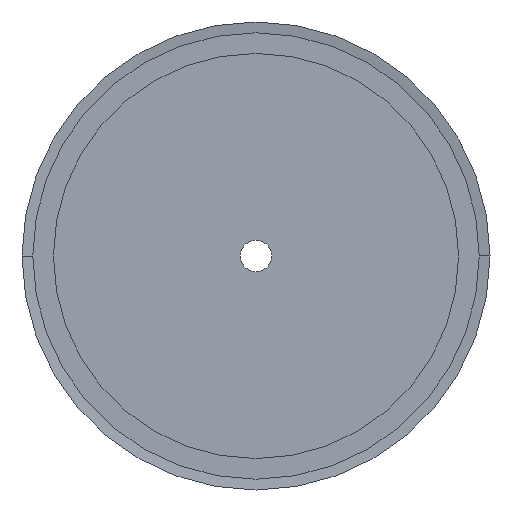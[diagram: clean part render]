
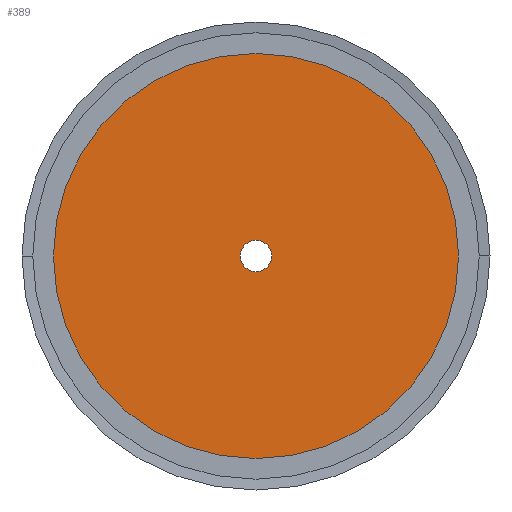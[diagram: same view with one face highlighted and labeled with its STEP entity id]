
A CAD part, left-side view. The second image highlights one B-rep face of the part: STEP entity #389.
In plain terms, the highlighted planar face has unit normal (-1, 0, 0).
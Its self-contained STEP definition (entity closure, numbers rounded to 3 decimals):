
#389 = ADVANCED_FACE( '', ( #1025, #1026 ), #1027, .T. );
#1025 = FACE_BOUND( '', #1662, .T. );
#1026 = FACE_OUTER_BOUND( '', #1663, .T. );
#1027 = PLANE( '', #1664 );
#1662 = EDGE_LOOP( '', ( #4435, #4436 ) );
#1663 = EDGE_LOOP( '', ( #4437, #4438 ) );
#1664 = AXIS2_PLACEMENT_3D( '', #4439, #4440, #4441 );
#4435 = ORIENTED_EDGE( '', *, *, #5352, .F. );
#4436 = ORIENTED_EDGE( '', *, *, #4457, .F. );
#4437 = ORIENTED_EDGE( '', *, *, #4445, .T. );
#4438 = ORIENTED_EDGE( '', *, *, #5357, .T. );
#4439 = CARTESIAN_POINT( '', ( 0., 27.75, 0. ) );
#4440 = DIRECTION( '', ( -1., 0., 0. ) );
#4441 = DIRECTION( '', ( 0., 1., 0. ) );
#4445 = EDGE_CURVE( '', #5359, #5363, #5365, .T. );
#4457 = EDGE_CURVE( '', #5387, #5383, #5389, .T. );
#5352 = EDGE_CURVE( '', #5383, #5387, #6876, .T. );
#5357 = EDGE_CURVE( '', #5363, #5359, #6881, .T. );
#5359 = VERTEX_POINT( '', #6883 );
#5363 = VERTEX_POINT( '', #6888 );
#5365 = CIRCLE( '', #6891, 51.5 );
#5383 = VERTEX_POINT( '', #6913 );
#5387 = VERTEX_POINT( '', #6918 );
#5389 = CIRCLE( '', #6921, 4. );
#6876 = CIRCLE( '', #8924, 4. );
#6881 = CIRCLE( '', #8929, 51.5 );
#6883 = CARTESIAN_POINT( '', ( 0., 51.5, 0. ) );
#6888 = CARTESIAN_POINT( '', ( 0., -51.5, 0. ) );
#6891 = AXIS2_PLACEMENT_3D( '', #8935, #8936, #8937 );
#6913 = CARTESIAN_POINT( '', ( 0., 4., 0. ) );
#6918 = CARTESIAN_POINT( '', ( 0., -4., 0. ) );
#6921 = AXIS2_PLACEMENT_3D( '', #8959, #8960, #8961 );
#8924 = AXIS2_PLACEMENT_3D( '', #10612, #10613, #10614 );
#8929 = AXIS2_PLACEMENT_3D( '', #10627, #10628, #10629 );
#8935 = CARTESIAN_POINT( '', ( 0., 0., 0. ) );
#8936 = DIRECTION( '', ( -1., 0., 0. ) );
#8937 = DIRECTION( '', ( 0., 1., 0. ) );
#8959 = CARTESIAN_POINT( '', ( 0., 0., 0. ) );
#8960 = DIRECTION( '', ( -1., 0., 0. ) );
#8961 = DIRECTION( '', ( 0., 1., 0. ) );
#10612 = CARTESIAN_POINT( '', ( 0., 0., 0. ) );
#10613 = DIRECTION( '', ( -1., 0., 0. ) );
#10614 = DIRECTION( '', ( 0., 1., 0. ) );
#10627 = CARTESIAN_POINT( '', ( 0., 0., 0. ) );
#10628 = DIRECTION( '', ( -1., 0., 0. ) );
#10629 = DIRECTION( '', ( 0., 1., 0. ) );
